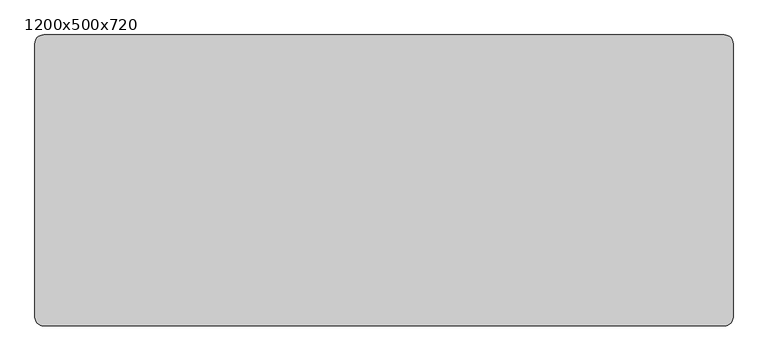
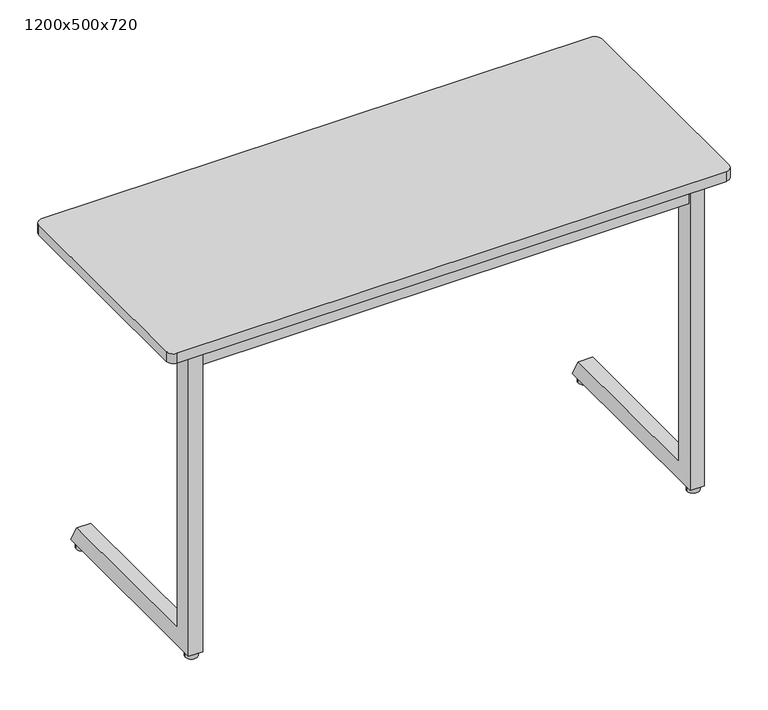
"""IFC4 building model written with IfcOpenShell, lengths in millimetres: furniture geometry, Trivia Light : 1200x500x720."""

from ifc_helpers import new_model, si_unit, point, frame, frame_2d, origin, origin_with_axes, place, context, project, spatial, polyline, circle_curve, trimmed, segment, composite_curve, outline, extrude, source, transform, mapped, element, save


def furniture_1200x500x720_ef4dc911(model_context):
    return source(origin(), model_context, "Body", "SweptSolid", [
        extrude(outline(polyline([(434.5100173, 698.0), (419.9996059, 666.4981092), (54.0, 666.4977978), (54.0, 698.0), (434.5100173, 698.0)])), frame((-464.7535601, 0.0, 0.0), z_axis=(1.0, 0.0, 0.0), x_axis=(0.0, 1.0, 0.0)), (0.0, 0.0, 1.0), 30.0),
        extrude(outline(polyline([(693.7997437, -467.7502136), (670.730957, -467.7502136), (670.730957, -499.8065042), (675.0394353, -511.6439509), (672.2203574, -512.6700113), (667.730957, -500.3354852), (667.730957, -464.7502136), (693.7997437, -464.7502136), (693.7997437, -467.7502136)])), frame((0.0, 215.0, 0.0), z_axis=(0.0, 1.0, 0.0), x_axis=(0.0, 0.0, 1.0)), (0.0, 0.0, 1.0), 30.0),
        extrude(outline(polyline([(693.7997437, 467.7535601), (693.7997437, 464.7535601), (667.730957, 464.7535601), (667.730957, 500.3388316), (672.2203574, 512.6733577), (675.0394353, 511.6472973), (670.730957, 499.8098507), (670.730957, 467.7535601), (693.7997437, 467.7535601)])), frame((0.0, 215.0, 0.0), z_axis=(0.0, 1.0, 0.0), x_axis=(0.0, 0.0, 1.0)), (0.0, 0.0, 1.0), 30.0),
        extrude(outline(composite_curve([segment(trimmed(circle_curve(frame_2d((-535.0, 35.0)), 13.0), [point((-548.0, 35.0))], [point((-522.0, 35.0))], False, "CARTESIAN"), True, "CONTINUOUS"), segment(trimmed(circle_curve(frame_2d((-535.0, 35.0)), 13.0), [point((-522.0, 35.0))], [point((-548.0, 35.0))], False, "CARTESIAN"), True, "CONTINUOUS")], self_intersect=False)), origin_with_axes(), (0.0, 0.0, 1.0), 13.0905762),
        extrude(outline(composite_curve([segment(trimmed(circle_curve(frame_2d((535.0, 35.0)), 13.0), [point((522.0, 35.0))], [point((548.0, 35.0))], False, "CARTESIAN"), True, "CONTINUOUS"), segment(trimmed(circle_curve(frame_2d((535.0, 35.0)), 13.0), [point((548.0, 35.0))], [point((522.0, 35.0))], False, "CARTESIAN"), True, "CONTINUOUS")], self_intersect=False)), origin_with_axes(), (0.0, 0.0, 1.0), 13.0905762),
        extrude(outline(composite_curve([segment(trimmed(circle_curve(frame_2d((535.0, 437.5)), 13.0), [point((522.0, 437.5))], [point((548.0, 437.5))], False, "CARTESIAN"), True, "CONTINUOUS"), segment(trimmed(circle_curve(frame_2d((535.0, 437.5)), 13.0), [point((548.0, 437.5))], [point((522.0, 437.5))], False, "CARTESIAN"), True, "CONTINUOUS")], self_intersect=False)), origin_with_axes(), (0.0, 0.0, 1.0), 13.0905762),
        extrude(outline(composite_curve([segment(trimmed(circle_curve(frame_2d((-535.0, 437.5)), 13.0), [point((-548.0, 437.5))], [point((-522.0, 437.5))], False, "CARTESIAN"), True, "CONTINUOUS"), segment(trimmed(circle_curve(frame_2d((-535.0, 437.5)), 13.0), [point((-522.0, 437.5))], [point((-548.0, 437.5))], False, "CARTESIAN"), True, "CONTINUOUS")], self_intersect=False)), origin_with_axes(), (0.0, 0.0, 1.0), 13.0905762),
        extrude(outline(polyline([(434.5100173, 698.0), (419.9996059, 666.4981092), (54.0, 666.4977978), (54.0, 698.0), (434.5100173, 698.0)])), frame((434.7535601, 0.0, 0.0), z_axis=(1.0, 0.0, 0.0), x_axis=(0.0, 1.0, 0.0)), (0.0, 0.0, 1.0), 30.0),
        extrude(outline(composite_curve([segment(trimmed(circle_curve(frame_2d((585.0, 485.0)), 15.0), [point((585.0, 500.0))], [point((600.0, 485.0))], False, "CARTESIAN"), True, "CONTINUOUS"), segment(polyline([(600.0, 485.0), (600.0, 15.0)]), True, "CONTINUOUS"), segment(trimmed(circle_curve(frame_2d((585.0, 15.0)), 15.0), [point((600.0, 15.0))], [point((585.0, 0.0))], False, "CARTESIAN"), True, "CONTINUOUS"), segment(polyline([(585.0, 0.0), (-585.0, 0.0)]), True, "CONTINUOUS"), segment(trimmed(circle_curve(frame_2d((-585.0, 15.0)), 15.0), [point((-585.0, 0.0))], [point((-600.0, 15.0))], False, "CARTESIAN"), True, "CONTINUOUS"), segment(polyline([(-600.0, 15.0), (-600.0, 485.0)]), True, "CONTINUOUS"), segment(trimmed(circle_curve(frame_2d((-585.0, 485.0)), 15.0), [point((-600.0, 485.0))], [point((-585.0, 500.0))], False, "CARTESIAN"), True, "CONTINUOUS"), segment(polyline([(-585.0, 500.0), (585.0, 500.0)]), True, "CONTINUOUS")], self_intersect=False)), frame((0.0, 0.0, 698.0), z_axis=(0.0, 0.0, 1.0), x_axis=(1.0, 0.0, 0.0)), (0.0, 0.0, 1.0), 22.0),
        extrude(outline(polyline([(519.7534307, 54.0), (519.7534307, 24.0), (-519.7534307, 24.0), (-519.7534307, 54.0), (519.7534307, 54.0)])), frame((0.0, 0.0, 656.0), z_axis=(0.0, 0.0, 1.0), x_axis=(1.0, 0.0, 0.0)), (0.0, 0.0, 1.0), 42.0),
        extrude(outline(polyline([(62.0, 51.5905762), (432.1448423, 51.5905762), (454.8944033, 11.5905762), (20.0, 11.5905762), (20.0, 698.0), (62.0, 698.0), (62.0, 51.5905762)])), frame((-549.7535601, 0.0, 0.0), z_axis=(1.0, 0.0, 0.0), x_axis=(0.0, 1.0, 0.0)), (0.0, 0.0, 1.0), 30.0001294),
        extrude(outline(polyline([(62.0, 51.5905762), (432.1448423, 51.5905762), (454.8944033, 11.5905762), (20.0, 11.5905762), (20.0, 698.0), (62.0, 698.0), (62.0, 51.5905762)])), frame((519.7534307, 0.0, 0.0), z_axis=(1.0, 0.0, 0.0), x_axis=(0.0, 1.0, 0.0)), (0.0, 0.0, 1.0), 30.0001294),
    ])


if __name__ == "__main__":
    model = new_model("IFC4")
    model_context = context("Model", 3, world=origin())
    ifc_project = project(units=[si_unit("LENGTHUNIT", "METRE", prefix="MILLI")], contexts=[model_context])
    site = spatial("IfcSite", under=ifc_project)
    building = spatial("IfcBuilding", under=site)
    placement = place(None, origin())
    furniture_1200x500x720_shape = furniture_1200x500x720_ef4dc911(model_context)
    element("IfcFurniture", 1, ObjectType="Trivia Light : 1200x500x720", at=placement, inside=building, context=model_context, shape_type="MappedRepresentation", body=[
        mapped(furniture_1200x500x720_shape, transform((0.0, 0.0, 0.0), x_axis=(1.0, 0.0, 0.0), y_axis=(0.0, 1.0, 0.0), z_axis=(0.0, 0.0, 1.0))),
    ])
    save(model, "model.ifc")
